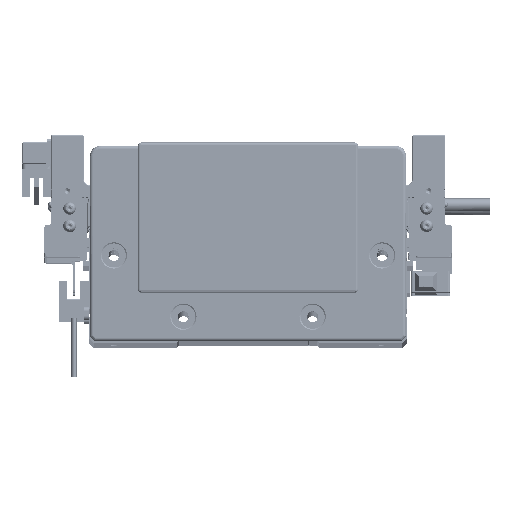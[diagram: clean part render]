
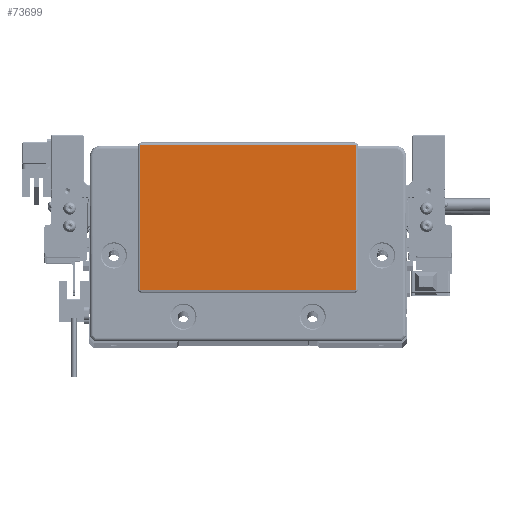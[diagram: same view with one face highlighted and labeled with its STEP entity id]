
A CAD part, top view. The second image highlights one B-rep face of the part: STEP entity #73699.
In plain terms, the highlighted planar face has unit normal (0, 0, 1) as drawn and (0, 0, -1) by its records, which use the part's own axes.
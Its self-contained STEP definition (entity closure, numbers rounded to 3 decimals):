
#1003 = EDGE_LOOP ( 'NONE', ( #55360, #18879, #47281, #45615, #27496, #108892, #32800, #66282 ) ) ;
#3255 = FACE_OUTER_BOUND ( 'NONE', #1003, .T. ) ;
#4928 = DIRECTION ( 'NONE',  ( 0., 0., -1. ) ) ;
#7122 = CARTESIAN_POINT ( 'NONE',  ( 48.75, 43.8, -2. ) ) ;
#10644 = DIRECTION ( 'NONE',  ( -1., 0., 0. ) ) ;
#11599 = DIRECTION ( 'NONE',  ( 0., 0., -1. ) ) ;
#13429 = DIRECTION ( 'NONE',  ( -1., 0., 0. ) ) ;
#14856 = VERTEX_POINT ( 'NONE', #71319 ) ;
#15558 = AXIS2_PLACEMENT_3D ( 'NONE', #102177, #93816, #94947 ) ;
#18879 = ORIENTED_EDGE ( 'NONE', *, *, #55463, .T. ) ;
#20047 = EDGE_CURVE ( 'NONE', #24511, #76486, #56746, .T. ) ;
#21565 = PLANE ( 'NONE',  #101905 ) ;
#21719 = VECTOR ( 'NONE', #102777, 1000. ) ;
#24511 = VERTEX_POINT ( 'NONE', #28128 ) ;
#25791 = DIRECTION ( 'NONE',  ( 1., 0., 0. ) ) ;
#27496 = ORIENTED_EDGE ( 'NONE', *, *, #72419, .T. ) ;
#28128 = CARTESIAN_POINT ( 'NONE',  ( -49.25, 43.8, -2. ) ) ;
#28755 = CARTESIAN_POINT ( 'NONE',  ( -48.75, 44.3, -2. ) ) ;
#30596 = EDGE_CURVE ( 'NONE', #108369, #14856, #31421, .T. ) ;
#31421 = CIRCLE ( 'NONE', #65136, 0.5 ) ;
#32800 = ORIENTED_EDGE ( 'NONE', *, *, #43389, .T. ) ;
#34429 = LINE ( 'NONE', #96093, #21719 ) ;
#38825 = CARTESIAN_POINT ( 'NONE',  ( 48.75, 44.3, -2. ) ) ;
#42941 = VERTEX_POINT ( 'NONE', #55966 ) ;
#43389 = EDGE_CURVE ( 'NONE', #76486, #108369, #68027, .T. ) ;
#45615 = ORIENTED_EDGE ( 'NONE', *, *, #101297, .T. ) ;
#45762 = EDGE_CURVE ( 'NONE', #93527, #104216, #54565, .T. ) ;
#46602 = DIRECTION ( 'NONE',  ( -1., 0., 0. ) ) ;
#47170 = DIRECTION ( 'NONE',  ( 0., 0., -1. ) ) ;
#47281 = ORIENTED_EDGE ( 'NONE', *, *, #45762, .T. ) ;
#47568 = EDGE_CURVE ( 'NONE', #14856, #42941, #34429, .T. ) ;
#48087 = CARTESIAN_POINT ( 'NONE',  ( -48.75, -22.3, -2. ) ) ;
#48256 = CIRCLE ( 'NONE', #62423, 0.5 ) ;
#54055 = DIRECTION ( 'NONE',  ( 0., 0., -1. ) ) ;
#54565 = LINE ( 'NONE', #88503, #79986 ) ;
#55360 = ORIENTED_EDGE ( 'NONE', *, *, #47568, .T. ) ;
#55463 = EDGE_CURVE ( 'NONE', #42941, #93527, #104390, .T. ) ;
#55966 = CARTESIAN_POINT ( 'NONE',  ( 49.25, -21.8, -2. ) ) ;
#56746 = CIRCLE ( 'NONE', #90621, 0.5 ) ;
#59561 = VERTEX_POINT ( 'NONE', #87899 ) ;
#62423 = AXIS2_PLACEMENT_3D ( 'NONE', #69592, #47170, #10644 ) ;
#63459 = CARTESIAN_POINT ( 'NONE',  ( -48.75, 43.8, -2. ) ) ;
#65136 = AXIS2_PLACEMENT_3D ( 'NONE', #7122, #4928, #91638 ) ;
#66282 = ORIENTED_EDGE ( 'NONE', *, *, #30596, .T. ) ;
#68027 = LINE ( 'NONE', #91953, #88710 ) ;
#68321 = DIRECTION ( 'NONE',  ( 0., 1., 0. ) ) ;
#69592 = CARTESIAN_POINT ( 'NONE',  ( -48.75, -21.8, -2. ) ) ;
#71296 = DIRECTION ( 'NONE',  ( -1., 0., 0. ) ) ;
#71319 = CARTESIAN_POINT ( 'NONE',  ( 49.25, 43.8, -2. ) ) ;
#72419 = EDGE_CURVE ( 'NONE', #59561, #24511, #77765, .T. ) ;
#73699 = ADVANCED_FACE ( 'NONE', ( #3255 ), #21565, .T. ) ;
#74158 = CARTESIAN_POINT ( 'NONE',  ( 48.75, -22.3, -2. ) ) ;
#76486 = VERTEX_POINT ( 'NONE', #28755 ) ;
#76677 = CARTESIAN_POINT ( 'NONE',  ( -49.25, 43.8, -2. ) ) ;
#77765 = LINE ( 'NONE', #76677, #103520 ) ;
#79986 = VECTOR ( 'NONE', #13429, 1000. ) ;
#87899 = CARTESIAN_POINT ( 'NONE',  ( -49.25, -21.8, -2. ) ) ;
#88503 = CARTESIAN_POINT ( 'NONE',  ( -48.75, -22.3, -2. ) ) ;
#88710 = VECTOR ( 'NONE', #25791, 1000. ) ;
#90621 = AXIS2_PLACEMENT_3D ( 'NONE', #63459, #54055, #71296 ) ;
#91638 = DIRECTION ( 'NONE',  ( -1., 0., 0. ) ) ;
#91953 = CARTESIAN_POINT ( 'NONE',  ( 48.75, 44.3, -2. ) ) ;
#93527 = VERTEX_POINT ( 'NONE', #74158 ) ;
#93816 = DIRECTION ( 'NONE',  ( 0., 0., -1. ) ) ;
#94947 = DIRECTION ( 'NONE',  ( -1., 0., 0. ) ) ;
#96093 = CARTESIAN_POINT ( 'NONE',  ( 49.25, -21.8, -2. ) ) ;
#101297 = EDGE_CURVE ( 'NONE', #104216, #59561, #48256, .T. ) ;
#101905 = AXIS2_PLACEMENT_3D ( 'NONE', #106075, #11599, #46602 ) ;
#102177 = CARTESIAN_POINT ( 'NONE',  ( 48.75, -21.8, -2. ) ) ;
#102777 = DIRECTION ( 'NONE',  ( 0., -1., 0. ) ) ;
#103520 = VECTOR ( 'NONE', #68321, 1000. ) ;
#104216 = VERTEX_POINT ( 'NONE', #48087 ) ;
#104390 = CIRCLE ( 'NONE', #15558, 0.5 ) ;
#106075 = CARTESIAN_POINT ( 'NONE',  ( 0., 0., -2. ) ) ;
#108369 = VERTEX_POINT ( 'NONE', #38825 ) ;
#108892 = ORIENTED_EDGE ( 'NONE', *, *, #20047, .T. ) ;
